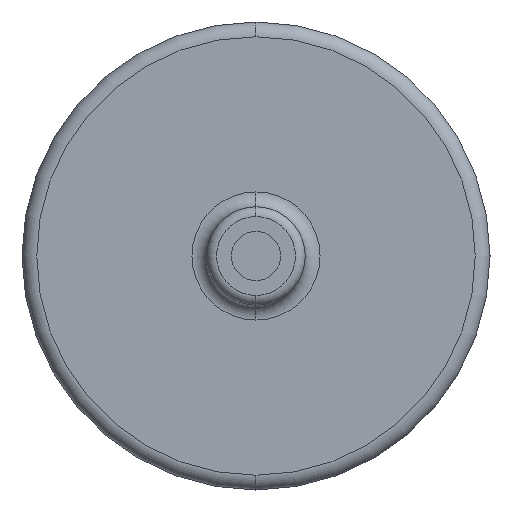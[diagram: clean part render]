
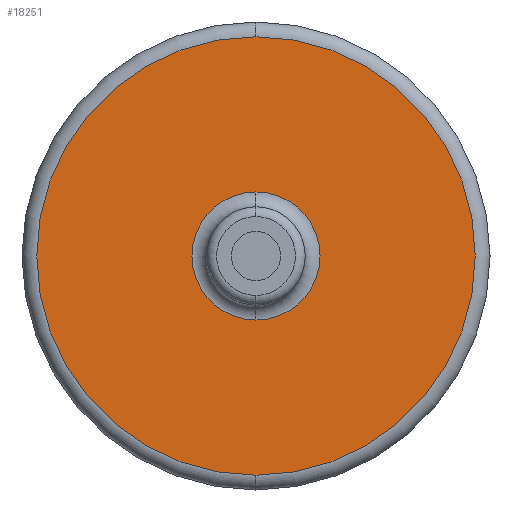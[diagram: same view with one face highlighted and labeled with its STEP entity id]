
A CAD part, left-side view. The second image highlights one B-rep face of the part: STEP entity #18251.
In plain terms, the highlighted planar face has unit normal (-1, 0, 0).
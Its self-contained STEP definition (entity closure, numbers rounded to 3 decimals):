
#281 = VERTEX_POINT ( 'NONE', #1028 ) ;
#337 = CARTESIAN_POINT ( 'NONE',  ( -26., 0., -4.45 ) ) ;
#670 = CARTESIAN_POINT ( 'NONE',  ( -26., 0., 0. ) ) ;
#1028 = CARTESIAN_POINT ( 'NONE',  ( -26., 0., -1.3 ) ) ;
#1537 = DIRECTION ( 'NONE',  ( 0., 0., -1. ) ) ;
#1647 = VERTEX_POINT ( 'NONE', #21569 ) ;
#2425 = AXIS2_PLACEMENT_3D ( 'NONE', #11940, #20959, #2921 ) ;
#2759 = CIRCLE ( 'NONE', #14342, 4.45 ) ;
#2921 = DIRECTION ( 'NONE',  ( 0., 0., -1. ) ) ;
#3529 = CIRCLE ( 'NONE', #2425, 1.3 ) ;
#4104 = ORIENTED_EDGE ( 'NONE', *, *, #6785, .T. ) ;
#4524 = DIRECTION ( 'NONE',  ( 1., 0., 0. ) ) ;
#5622 = CARTESIAN_POINT ( 'NONE',  ( -26., 0., 1.3 ) ) ;
#5876 = VERTEX_POINT ( 'NONE', #5622 ) ;
#6477 = DIRECTION ( 'NONE',  ( 0., 0., -1. ) ) ;
#6785 = EDGE_CURVE ( 'NONE', #5876, #281, #17942, .T. ) ;
#8123 = EDGE_CURVE ( 'NONE', #1647, #12219, #2759, .T. ) ;
#8413 = EDGE_CURVE ( 'NONE', #12219, #1647, #19217, .T. ) ;
#9095 = AXIS2_PLACEMENT_3D ( 'NONE', #15273, #15039, #6477 ) ;
#9969 = DIRECTION ( 'NONE',  ( 1., 0., 0. ) ) ;
#11681 = DIRECTION ( 'NONE',  ( 0., 0., -1. ) ) ;
#11940 = CARTESIAN_POINT ( 'NONE',  ( -26., 0., 0. ) ) ;
#11966 = FACE_BOUND ( 'NONE', #12657, .T. ) ;
#12219 = VERTEX_POINT ( 'NONE', #337 ) ;
#12445 = AXIS2_PLACEMENT_3D ( 'NONE', #19107, #9969, #1537 ) ;
#12657 = EDGE_LOOP ( 'NONE', ( #15314, #4104 ) ) ;
#13706 = EDGE_LOOP ( 'NONE', ( #21520, #13712 ) ) ;
#13712 = ORIENTED_EDGE ( 'NONE', *, *, #8123, .T. ) ;
#13830 = AXIS2_PLACEMENT_3D ( 'NONE', #670, #4524, #11681 ) ;
#14342 = AXIS2_PLACEMENT_3D ( 'NONE', #17277, #15652, #22804 ) ;
#15039 = DIRECTION ( 'NONE',  ( -1., 0., 0. ) ) ;
#15273 = CARTESIAN_POINT ( 'NONE',  ( -26., 0., 0. ) ) ;
#15314 = ORIENTED_EDGE ( 'NONE', *, *, #22090, .T. ) ;
#15652 = DIRECTION ( 'NONE',  ( -1., 0., 0. ) ) ;
#17277 = CARTESIAN_POINT ( 'NONE',  ( -26., 0., 0. ) ) ;
#17942 = CIRCLE ( 'NONE', #13830, 1.3 ) ;
#18251 = ADVANCED_FACE ( 'NONE', ( #11966, #20985 ), #22517, .F. ) ;
#19107 = CARTESIAN_POINT ( 'NONE',  ( -26., 4.75, 0. ) ) ;
#19217 = CIRCLE ( 'NONE', #9095, 4.45 ) ;
#20959 = DIRECTION ( 'NONE',  ( 1., 0., 0. ) ) ;
#20985 = FACE_OUTER_BOUND ( 'NONE', #13706, .T. ) ;
#21520 = ORIENTED_EDGE ( 'NONE', *, *, #8413, .T. ) ;
#21569 = CARTESIAN_POINT ( 'NONE',  ( -26., 0., 4.45 ) ) ;
#22090 = EDGE_CURVE ( 'NONE', #281, #5876, #3529, .T. ) ;
#22517 = PLANE ( 'NONE',  #12445 ) ;
#22804 = DIRECTION ( 'NONE',  ( 0., 0., -1. ) ) ;
